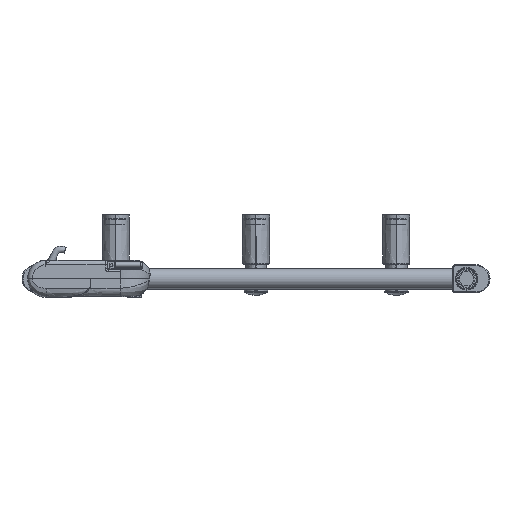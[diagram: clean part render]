
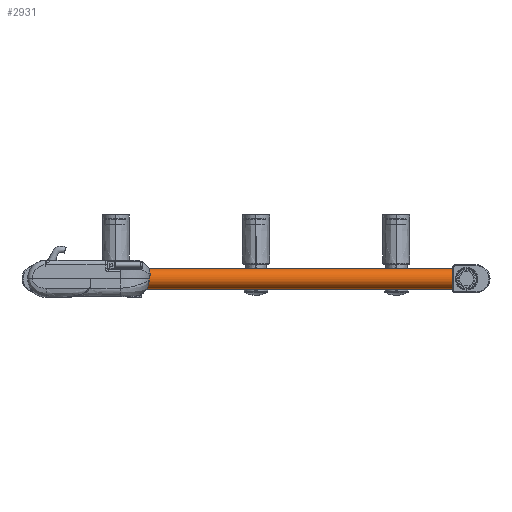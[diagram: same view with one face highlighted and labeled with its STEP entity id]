
A CAD part, front view. The second image highlights one B-rep face of the part: STEP entity #2931.
In plain terms, the highlighted cylindrical face has radius 11 mm (diameter 22 mm), a partial arc.
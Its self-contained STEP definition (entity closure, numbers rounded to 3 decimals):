
#319=CARTESIAN_POINT('',(210.,-726.,0.));
#320=DIRECTION('',(1.,0.,0.));
#321=DIRECTION('',(0.,0.,1.));
#322=AXIS2_PLACEMENT_3D('',#319,#320,#321);
#888=DIRECTION('',(1.,0.,0.));
#889=VECTOR('',#888,420.);
#890=CARTESIAN_POINT('',(-210.,-726.,-11.));
#891=LINE('',#890,#889);
#895=DIRECTION('',(1.,0.,0.));
#896=VECTOR('',#895,420.);
#897=CARTESIAN_POINT('',(-210.,-726.,11.));
#898=LINE('',#897,#896);
#938=CARTESIAN_POINT('',(-210.,-726.,0.));
#939=DIRECTION('',(1.,0.,0.));
#940=DIRECTION('',(0.,0.,1.));
#941=AXIS2_PLACEMENT_3D('',#938,#939,#940);
#2144=CARTESIAN_POINT('',(-210.,-726.,-11.));
#2145=CARTESIAN_POINT('',(210.,-726.,-11.));
#2146=VERTEX_POINT('',#2144);
#2147=VERTEX_POINT('',#2145);
#2148=CARTESIAN_POINT('',(-210.,-726.,11.));
#2149=CARTESIAN_POINT('',(210.,-726.,11.));
#2150=VERTEX_POINT('',#2148);
#2151=VERTEX_POINT('',#2149);
#2919=CARTESIAN_POINT('',(-300.,-726.,0.));
#2920=DIRECTION('',(1.,0.,0.));
#2921=DIRECTION('',(0.,0.,-1.));
#2922=AXIS2_PLACEMENT_3D('',#2919,#2920,#2921);
#2923=CYLINDRICAL_SURFACE('',#2922,11.);
#2924=ORIENTED_EDGE('',*,*,#2909,.F.);
#2926=ORIENTED_EDGE('',*,*,#2925,.F.);
#2927=ORIENTED_EDGE('',*,*,#2912,.T.);
#2928=ORIENTED_EDGE('',*,*,#2568,.T.);
#2929=EDGE_LOOP('',(#2924,#2926,#2927,#2928));
#2930=FACE_OUTER_BOUND('',#2929,.F.);
#323=CIRCLE('',#322,11.);
#942=CIRCLE('',#941,11.);
#2568=EDGE_CURVE('',#2151,#2147,#323,.T.);
#2909=EDGE_CURVE('',#2146,#2147,#891,.T.);
#2912=EDGE_CURVE('',#2150,#2151,#898,.T.);
#2925=EDGE_CURVE('',#2150,#2146,#942,.T.);
#2931=ADVANCED_FACE('',(#2930),#2923,.T.);
